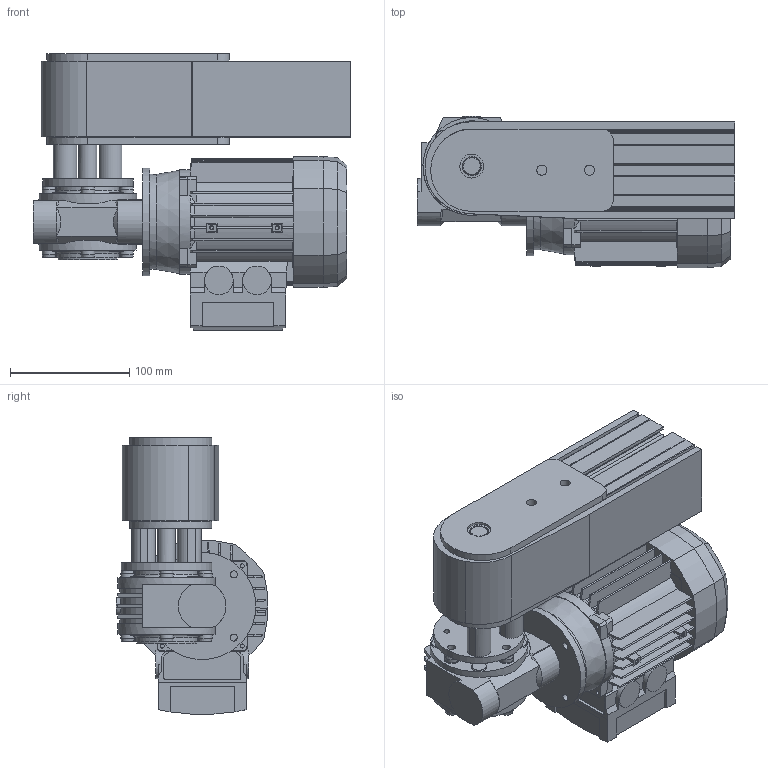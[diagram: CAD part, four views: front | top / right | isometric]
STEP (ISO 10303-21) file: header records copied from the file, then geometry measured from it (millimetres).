
FILE_DESCRIPTION((''),'2;1');
FILE_NAME('C:\Vault Klient\Projekt\Koncept konstruktion\Serie 620 Drivenhet\620-392H.stp','2010-07-02T07:50:28',('Mathias'),(''),'Autodesk Inventor 2010','Autodesk Inventor 2010','');
FILE_SCHEMA(('CONFIG_CONTROL_DESIGN'));
Length unit declared in the file: millimetre
Products named in the file (1): 620-392H
Bounding box: 266.52 x 126.89 x 231.87 mm (x, y, z)
Volume: 1727506.3 mm3; surface area: 540631 mm2
Topology: 1 solids, 13 shells, 1394 faces, 3697 edges, 2363 vertices
Faces by surface type: plane 644, cylinder 392, bspline 189, cone 121, torus 48
Full cylindrical faces by diameter (mm): 2.8 x4, 3.432 x4, 4.351 x4, 5.188 x8, 5.5 x8, 6 x4, 8 x3, 13.3 x1, 13.5 x1, 14 x1, 14.3 x3, 15 x4, 15.001 x1, 18 x1, 20 x1, 22 x1, 24 x4, 24.5 x2, 27 x1, 28 x1, 30 x2, 32 x2, 35 x2, 45 x2, 50 x4, 60 x1, 76 x1, 80 x2, 82 x2, 84 x2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
Entity records: 47745 total; most frequent: CARTESIAN_POINT 13726, ORIENTED_EDGE 7038, DIRECTION 6760, EDGE_CURVE 3519, AXIS2_PLACEMENT_3D 2548, VERTEX_POINT 2307, VECTOR 1664, LINE 1664
